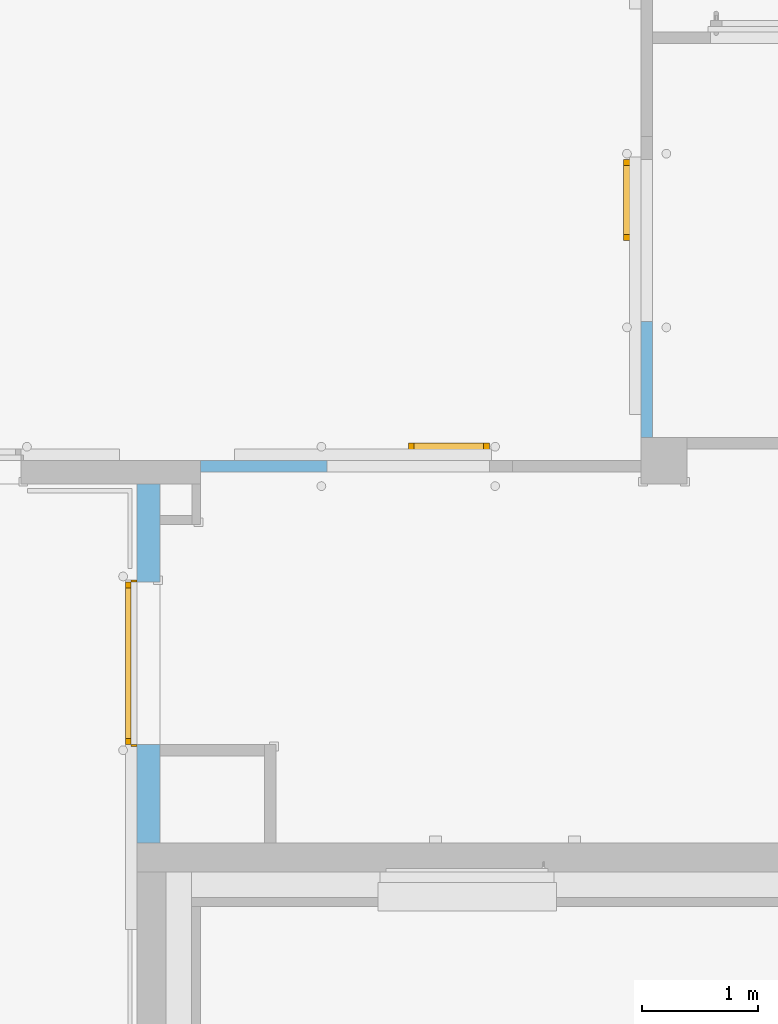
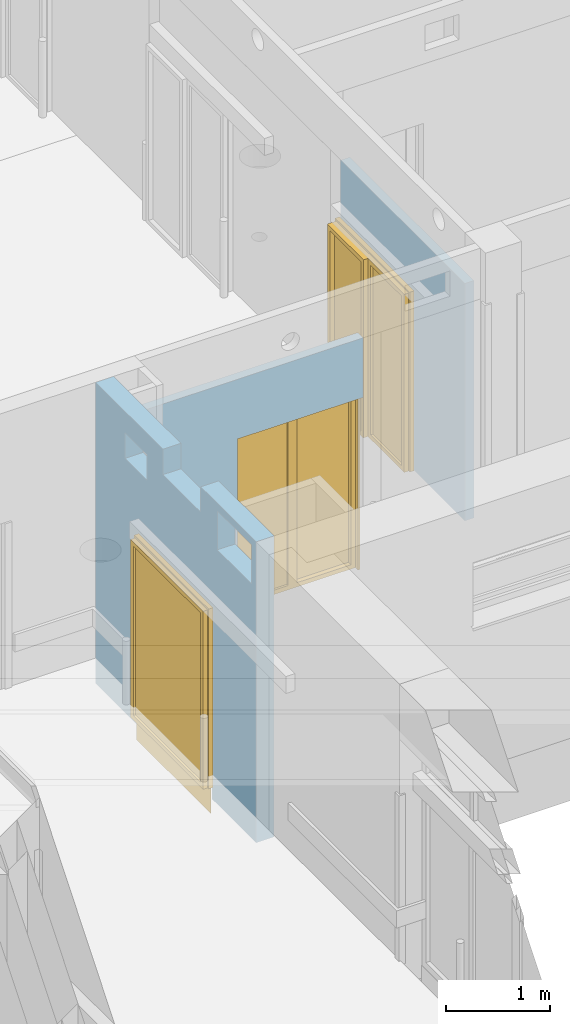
# One storey, part 109 of 140: 3 doors, 6 openings, plus 3 elements that do not belong to this part.
"""IFC4 building model written with IfcOpenShell, lengths in metres."""

from ifc_helpers import new_model, entity, si_unit, converted_unit, derived_unit, frame, frame_2d, origin, origin_with_axes, place, context, subcontext, project, spatial, polyline, rectangle, outline, extrude, closed_shell, open_shell, surface_model, source, transform, mapped, material, layer, layer_set, layer_usage, type_object, element, fill, save


model = new_model("IFC4")

# Units and contexts
model_context = context("Model", 3, precision=1e-05, world=origin())
body_context = subcontext(model_context, "Body", "Model", "MODEL_VIEW")
ifc_project = project(units=[si_unit("LENGTHUNIT", "METRE"), si_unit("AREAUNIT", "SQUARE_METRE"), si_unit("VOLUMEUNIT", "CUBIC_METRE"), si_unit("MASSUNIT", "GRAM", prefix="KILO"), converted_unit("PLANEANGLEUNIT", "DEGREE", entity("IfcPlaneAngleMeasure", 0.0174532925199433), si_unit("PLANEANGLEUNIT", "RADIAN"), dimensions=[0, 0, 0, 0, 0, 0, 0]), derived_unit("THERMALTRANSMITTANCEUNIT", [(si_unit("POWERUNIT", "WATT"), 1), (si_unit("THERMODYNAMICTEMPERATUREUNIT", "KELVIN"), -1), (si_unit("LENGTHUNIT", "METRE"), -2)]), derived_unit("VOLUMETRICFLOWRATEUNIT", [(si_unit("LENGTHUNIT", "METRE"), 3), (converted_unit("TIMEUNIT", "hour", entity("IfcTimeMeasure", 3600.0), si_unit("TIMEUNIT", "SECOND"), dimensions=[0, 0, 1, 0, 0, 0, 0]), -1), (si_unit("LENGTHUNIT", "METRE"), -1)])], contexts=[model_context])

# Site, building, storey
site_placement = place(None, origin())
site = spatial("IfcSite", under=ifc_project, at=site_placement, Name="3. ASŘ", CompositionType="ELEMENT")
building_placement = place(site_placement, origin())
building = spatial("IfcBuilding", under=site, at=building_placement, Name="Pavilon C", CompositionType="ELEMENT")
storey_placement = place(building_placement, origin())
storey = spatial("IfcBuildingStorey", under=building, at=storey_placement, Name="Půdorys 1.NP", CompositionType="ELEMENT", Elevation=0.0)

# Wall, opening, door
ifc_material_1 = material(Name="PROSKLENÁ PŘÍČKA DVOJITÁ")
ifc_layer_1 = layer(ifc_material_1, 0.1)
ifc_layer_set_1 = layer_set([ifc_layer_1])
ifc_layer_usage_1 = layer_usage(ifc_layer_set_1, "AXIS2", "POSITIVE", 0.0)
wall_1_placement = place(storey_placement, frame((56.0, 9.79999999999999, 0.0)))
wall_1 = element("IfcWall", 1, at=wall_1_placement, inside=storey, material=ifc_layer_usage_1, Name="PROSKLENÁ PŘÍČKA DVOJITÁ", context=body_context, shape_type="SweptSolid", body=[
    extrude(rectangle(XDim=2.492, YDim=0.1, at=frame_2d((1.246, 0.05), x_axis=(1.0, 0.0))), origin_with_axes(), (0.0, 0.0, 1.0), 2.8),
])
opening_1_placement = place(wall_1_placement, frame((2.492, 0.1, 0.0), z_axis=(0.0, -1.0, 0.0), x_axis=(0.0, 0.0, 1.0)))
opening_1 = element("IfcOpeningElement", 2, at=opening_1_placement, cuts=wall_1, Name="Dveřní otvor", ObjectType="Opening", context=body_context, shape_type="SweptSolid", body=[
    extrude(outline(polyline([(0.0, 1.4), (2.1, 1.4), (2.1, 0.0), (0.0, 0.0), (0.0, 1.4)])), origin_with_axes(), (0.0, 0.0, 1.0), 0.1),
])
door_type_1 = type_object("IfcDoorType", Name="I.DH14", OperationType="NOTDEFINED", ParameterTakesPrecedence=False, PredefinedType="DOOR")
shared_shape_1 = source(origin_with_axes(), body_context, "Body", "SurfaceModel", [
    surface_model("IfcShellBasedSurfaceModel", [(0.0, 0.0500000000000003, 2.12), (0.0, 0.05, 1.11492377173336e-17), (0.02, 0.05, 1.11492377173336e-17), (0.02, 0.0500000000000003, 2.12), (0.0, 0.0, 1.72724717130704e-17), (0.0, 2.62900812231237e-16, 2.12), (0.02, 2.62900812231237e-16, 2.12), (0.02, 0.0, 1.72724717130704e-17)], [closed_shell([[[0, 1, 2, 3]], [[4, 5, 6, 7]], [[1, 0, 5, 4]], [[2, 1, 4, 7]], [[3, 2, 7, 6]], [[0, 3, 6, 5]]], orient=[[False], [False], [False], [False], [False], [False]])]),
    surface_model("IfcShellBasedSurfaceModel", [(1.42, 0.0500000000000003, 2.12), (1.42, 0.05, 1.11492377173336e-17), (1.44, 0.05, 1.11492377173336e-17), (1.44, 0.0500000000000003, 2.12), (1.42, 0.0, 1.72724717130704e-17), (1.42, 2.62900812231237e-16, 2.12), (1.44, 2.62900812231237e-16, 2.12), (1.44, 0.0, 1.72724717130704e-17)], [closed_shell([[[0, 1, 2, 3]], [[4, 5, 6, 7]], [[1, 0, 5, 4]], [[2, 1, 4, 7]], [[3, 2, 7, 6]], [[0, 3, 6, 5]]], orient=[[False], [False], [False], [False], [False], [False]])]),
    surface_model("IfcShellBasedSurfaceModel", [(0.02, 0.0500000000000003, 2.12), (0.02, 0.0500000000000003, 2.1), (1.42, 0.0500000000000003, 2.1), (1.42, 0.0500000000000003, 2.12), (0.02, 2.55795384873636e-16, 2.1), (0.02, 2.55795384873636e-16, 2.12), (1.42, 2.55795384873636e-16, 2.12), (1.42, 2.55795384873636e-16, 2.1)], [closed_shell([[[0, 1, 2, 3]], [[4, 5, 6, 7]], [[1, 0, 5, 4]], [[2, 1, 4, 7]], [[3, 2, 7, 6]], [[0, 3, 6, 5]]], orient=[[False], [False], [False], [False], [False], [False]])]),
    surface_model("IfcShellBasedSurfaceModel", [(0.02, 0.1, 2.1), (0.02, 0.1, 5.02600372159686e-18), (0.07, 0.1, 5.02600372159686e-18), (0.07, 0.1, 2.1), (0.02, 0.05, 1.11492377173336e-17), (0.02, 0.0500000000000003, 2.1), (0.07, 0.0500000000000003, 2.1), (0.07, 0.05, 1.11492377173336e-17)], [closed_shell([[[0, 1, 2, 3]], [[4, 5, 6, 7]], [[1, 0, 5, 4]], [[2, 1, 4, 7]], [[3, 2, 7, 6]], [[0, 3, 6, 5]]], orient=[[False], [False], [False], [False], [False], [False]])]),
    surface_model("IfcShellBasedSurfaceModel", [(0.6695, 0.1, 2.1), (0.6695, 0.1, 5.02600372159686e-18), (0.7195, 0.1, 5.02600372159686e-18), (0.7195, 0.1, 2.1), (0.6695, 0.05, 1.11492377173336e-17), (0.6695, 0.0500000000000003, 2.1), (0.7195, 0.0500000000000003, 2.1), (0.7195, 0.05, 1.11492377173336e-17)], [closed_shell([[[0, 1, 2, 3]], [[4, 5, 6, 7]], [[1, 0, 5, 4]], [[2, 1, 4, 7]], [[3, 2, 7, 6]], [[0, 3, 6, 5]]], orient=[[False], [False], [False], [False], [False], [False]])]),
    surface_model("IfcShellBasedSurfaceModel", [(0.07, 0.1, 0.05), (0.07, 0.1, 5.02600372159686e-18), (0.6695, 0.1, 5.02600372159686e-18), (0.6695, 0.1, 0.05), (0.07, 0.05, 1.11492377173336e-17), (0.07, 0.05, 0.05), (0.6695, 0.05, 0.05), (0.6695, 0.05, 1.11492377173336e-17)], [closed_shell([[[0, 1, 2, 3]], [[4, 5, 6, 7]], [[1, 0, 5, 4]], [[2, 1, 4, 7]], [[3, 2, 7, 6]], [[0, 3, 6, 5]]], orient=[[False], [False], [False], [False], [False], [False]])]),
    surface_model("IfcShellBasedSurfaceModel", [(0.07, 0.1, 2.1), (0.07, 0.1, 2.05), (0.6695, 0.1, 2.05), (0.6695, 0.1, 2.1), (0.07, 0.0500000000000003, 2.05), (0.07, 0.0500000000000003, 2.1), (0.6695, 0.0500000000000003, 2.1), (0.6695, 0.0500000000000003, 2.05)], [closed_shell([[[0, 1, 2, 3]], [[4, 5, 6, 7]], [[1, 0, 5, 4]], [[2, 1, 4, 7]], [[3, 2, 7, 6]], [[0, 3, 6, 5]]], orient=[[False], [False], [False], [False], [False], [False]])]),
    surface_model("IfcShellBasedSurfaceModel", [(0.7205, 0.15, 2.1), (0.7205, 0.15, -1.09723027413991e-18), (0.7705, 0.15, -1.09723027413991e-18), (0.7705, 0.15, 2.1), (0.7205, 0.05, 1.11492377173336e-17), (0.7205, 0.0500000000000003, 2.1), (0.7705, 0.0500000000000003, 2.1), (0.7705, 0.05, 1.11492377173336e-17)], [closed_shell([[[0, 1, 2, 3]], [[4, 5, 6, 7]], [[1, 0, 5, 4]], [[2, 1, 4, 7]], [[3, 2, 7, 6]], [[0, 3, 6, 5]]], orient=[[False], [False], [False], [False], [False], [False]])]),
    surface_model("IfcShellBasedSurfaceModel", [(1.37, 0.15, 2.1), (1.37, 0.15, -1.09723027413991e-18), (1.42, 0.15, -1.09723027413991e-18), (1.42, 0.15, 2.1), (1.37, 0.05, 1.11492377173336e-17), (1.37, 0.0500000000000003, 2.1), (1.42, 0.0500000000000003, 2.1), (1.42, 0.05, 1.11492377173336e-17)], [closed_shell([[[0, 1, 2, 3]], [[4, 5, 6, 7]], [[1, 0, 5, 4]], [[2, 1, 4, 7]], [[3, 2, 7, 6]], [[0, 3, 6, 5]]], orient=[[False], [False], [False], [False], [False], [False]])]),
    surface_model("IfcShellBasedSurfaceModel", [(0.7705, 0.15, 0.05), (0.7705, 0.15, -1.09723027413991e-18), (1.37, 0.15, -1.09723027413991e-18), (1.37, 0.15, 0.05), (0.7705, 0.05, 1.11492377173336e-17), (0.7705, 0.05, 0.05), (1.37, 0.05, 0.05), (1.37, 0.05, 1.11492377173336e-17)], [closed_shell([[[0, 1, 2, 3]], [[4, 5, 6, 7]], [[1, 0, 5, 4]], [[2, 1, 4, 7]], [[3, 2, 7, 6]], [[0, 3, 6, 5]]], orient=[[False], [False], [False], [False], [False], [False]])]),
    surface_model("IfcShellBasedSurfaceModel", [(0.7705, 0.15, 2.1), (0.7705, 0.15, 2.05), (1.37, 0.15, 2.05), (1.37, 0.15, 2.1), (0.7705, 0.0500000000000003, 2.05), (0.7705, 0.0500000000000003, 2.1), (1.37, 0.0500000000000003, 2.1), (1.37, 0.0500000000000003, 2.05)], [closed_shell([[[0, 1, 2, 3]], [[4, 5, 6, 7]], [[1, 0, 5, 4]], [[2, 1, 4, 7]], [[3, 2, 7, 6]], [[0, 3, 6, 5]]], orient=[[False], [False], [False], [False], [False], [False]])]),
    surface_model("IfcShellBasedSurfaceModel", [(0.07, 0.075, 0.05), (0.6695, 0.075, 0.05), (0.6695, 0.0750000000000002, 2.05), (0.07, 0.0750000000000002, 2.05)], [open_shell([[[0, 1, 2, 3]]], orient=[[False]])]),
    surface_model("IfcShellBasedSurfaceModel", [(0.7705, 0.1, 0.05), (1.37, 0.1, 0.05), (1.37, 0.1, 2.05), (0.7705, 0.1, 2.05)], [open_shell([[[0, 1, 2, 3]]], orient=[[False]])]),
])
door_1_placement = place(opening_1_placement, frame((0.0, 1.42, 0.0), z_axis=(1.0, 0.0, 0.0), x_axis=(0.0, -1.0, 2.44929359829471e-16)))
door_1 = element("IfcDoor", 3, at=door_1_placement, inside=storey, type_object=door_type_1, Name="I.DH14", OverallHeight=2.14, OverallWidth=1.48, context=body_context, shape_type="MappedRepresentation", body=[
    mapped(shared_shape_1, transform((0.0, 0.0, 0.0), x_axis=(1.0, 0.0, 0.0), y_axis=(0.0, 1.0, 0.0), z_axis=(0.0, 0.0, 1.0), scale=1.0)),
])
fill(opening_1, door_1)

ifc_material_2 = material(Name="PROSKLENÁ PŘÍČKA DVOJITÁ")
ifc_layer_2 = layer(ifc_material_2, 0.1)
ifc_layer_set_2 = layer_set([ifc_layer_2])
ifc_layer_usage_2 = layer_usage(ifc_layer_set_2, "AXIS2", "POSITIVE", 0.0)
wall_2_placement = place(storey_placement, frame((59.8, 12.5, 0.0), z_axis=(0.0, 0.0, 1.0), x_axis=(0.0, -1.0, 0.0)))
wall_2 = element("IfcWall", 4, at=wall_2_placement, inside=storey, material=ifc_layer_usage_2, Name="PROSKLENÁ PŘÍČKA DVOJITÁ", context=body_context, shape_type="SweptSolid", body=[
    extrude(rectangle(XDim=2.4, YDim=0.1, at=frame_2d((1.2, 0.05), x_axis=(1.0, 0.0))), origin_with_axes(), (0.0, 0.0, 1.0), 2.8),
])
opening_2_placement = place(wall_2_placement, frame((0.0, 0.0, 0.0), z_axis=(0.0, 1.0, 0.0), x_axis=(0.0, 0.0, 1.0)))
opening_2 = element("IfcOpeningElement", 5, at=opening_2_placement, cuts=wall_2, Name="Dveřní otvor", ObjectType="Opening", context=body_context, shape_type="SweptSolid", body=[
    extrude(outline(polyline([(0.0, 1.4), (2.1, 1.4), (2.1, 0.0), (0.0, 0.0), (0.0, 1.4)])), origin_with_axes(), (0.0, 0.0, 1.0), 0.1),
])
door_type_2 = type_object("IfcDoorType", Name="I.DH15", OperationType="NOTDEFINED", ParameterTakesPrecedence=False, PredefinedType="DOOR")
shared_shape_2 = source(origin_with_axes(), body_context, "Body", "SurfaceModel", [
    surface_model("IfcShellBasedSurfaceModel", [(0.0, 0.0500000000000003, 2.12), (0.0, 0.05, 1.11492377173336e-17), (0.02, 0.05, 1.11492377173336e-17), (0.02, 0.0500000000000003, 2.12), (0.0, 0.0, 1.72724717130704e-17), (0.0, 2.62900812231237e-16, 2.12), (0.02, 2.62900812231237e-16, 2.12), (0.02, 0.0, 1.72724717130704e-17)], [closed_shell([[[0, 1, 2, 3]], [[4, 5, 6, 7]], [[1, 0, 5, 4]], [[2, 1, 4, 7]], [[3, 2, 7, 6]], [[0, 3, 6, 5]]], orient=[[False], [False], [False], [False], [False], [False]])]),
    surface_model("IfcShellBasedSurfaceModel", [(1.42, 0.0500000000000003, 2.12), (1.42, 0.05, 1.11492377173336e-17), (1.44, 0.05, 1.11492377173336e-17), (1.44, 0.0500000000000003, 2.12), (1.42, 0.0, 1.72724717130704e-17), (1.42, 2.62900812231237e-16, 2.12), (1.44, 2.62900812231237e-16, 2.12), (1.44, 0.0, 1.72724717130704e-17)], [closed_shell([[[0, 1, 2, 3]], [[4, 5, 6, 7]], [[1, 0, 5, 4]], [[2, 1, 4, 7]], [[3, 2, 7, 6]], [[0, 3, 6, 5]]], orient=[[False], [False], [False], [False], [False], [False]])]),
    surface_model("IfcShellBasedSurfaceModel", [(0.02, 0.0500000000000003, 2.12), (0.02, 0.0500000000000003, 2.1), (1.42, 0.0500000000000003, 2.1), (1.42, 0.0500000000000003, 2.12), (0.02, 2.55795384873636e-16, 2.1), (0.02, 2.55795384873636e-16, 2.12), (1.42, 2.55795384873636e-16, 2.12), (1.42, 2.55795384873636e-16, 2.1)], [closed_shell([[[0, 1, 2, 3]], [[4, 5, 6, 7]], [[1, 0, 5, 4]], [[2, 1, 4, 7]], [[3, 2, 7, 6]], [[0, 3, 6, 5]]], orient=[[False], [False], [False], [False], [False], [False]])]),
    surface_model("IfcShellBasedSurfaceModel", [(0.02, 0.1, 2.1), (0.02, 0.1, 5.02600372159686e-18), (0.07, 0.1, 5.02600372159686e-18), (0.07, 0.1, 2.1), (0.02, 0.05, 1.11492377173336e-17), (0.02, 0.0500000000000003, 2.1), (0.07, 0.0500000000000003, 2.1), (0.07, 0.05, 1.11492377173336e-17)], [closed_shell([[[0, 1, 2, 3]], [[4, 5, 6, 7]], [[1, 0, 5, 4]], [[2, 1, 4, 7]], [[3, 2, 7, 6]], [[0, 3, 6, 5]]], orient=[[False], [False], [False], [False], [False], [False]])]),
    surface_model("IfcShellBasedSurfaceModel", [(0.6695, 0.1, 2.1), (0.6695, 0.1, 5.02600372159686e-18), (0.7195, 0.1, 5.02600372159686e-18), (0.7195, 0.1, 2.1), (0.6695, 0.05, 1.11492377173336e-17), (0.6695, 0.0500000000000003, 2.1), (0.7195, 0.0500000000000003, 2.1), (0.7195, 0.05, 1.11492377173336e-17)], [closed_shell([[[0, 1, 2, 3]], [[4, 5, 6, 7]], [[1, 0, 5, 4]], [[2, 1, 4, 7]], [[3, 2, 7, 6]], [[0, 3, 6, 5]]], orient=[[False], [False], [False], [False], [False], [False]])]),
    surface_model("IfcShellBasedSurfaceModel", [(0.07, 0.1, 0.05), (0.07, 0.1, 5.02600372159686e-18), (0.6695, 0.1, 5.02600372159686e-18), (0.6695, 0.1, 0.05), (0.07, 0.05, 1.11492377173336e-17), (0.07, 0.05, 0.05), (0.6695, 0.05, 0.05), (0.6695, 0.05, 1.11492377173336e-17)], [closed_shell([[[0, 1, 2, 3]], [[4, 5, 6, 7]], [[1, 0, 5, 4]], [[2, 1, 4, 7]], [[3, 2, 7, 6]], [[0, 3, 6, 5]]], orient=[[False], [False], [False], [False], [False], [False]])]),
    surface_model("IfcShellBasedSurfaceModel", [(0.07, 0.1, 2.1), (0.07, 0.1, 2.05), (0.6695, 0.1, 2.05), (0.6695, 0.1, 2.1), (0.07, 0.0500000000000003, 2.05), (0.07, 0.0500000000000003, 2.1), (0.6695, 0.0500000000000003, 2.1), (0.6695, 0.0500000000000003, 2.05)], [closed_shell([[[0, 1, 2, 3]], [[4, 5, 6, 7]], [[1, 0, 5, 4]], [[2, 1, 4, 7]], [[3, 2, 7, 6]], [[0, 3, 6, 5]]], orient=[[False], [False], [False], [False], [False], [False]])]),
    surface_model("IfcShellBasedSurfaceModel", [(0.7205, 0.15, 2.1), (0.7205, 0.15, -1.09723027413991e-18), (0.7705, 0.15, -1.09723027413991e-18), (0.7705, 0.15, 2.1), (0.7205, 0.05, 1.11492377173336e-17), (0.7205, 0.0500000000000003, 2.1), (0.7705, 0.0500000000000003, 2.1), (0.7705, 0.05, 1.11492377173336e-17)], [closed_shell([[[0, 1, 2, 3]], [[4, 5, 6, 7]], [[1, 0, 5, 4]], [[2, 1, 4, 7]], [[3, 2, 7, 6]], [[0, 3, 6, 5]]], orient=[[False], [False], [False], [False], [False], [False]])]),
    surface_model("IfcShellBasedSurfaceModel", [(1.37, 0.15, 2.1), (1.37, 0.15, -1.09723027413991e-18), (1.42, 0.15, -1.09723027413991e-18), (1.42, 0.15, 2.1), (1.37, 0.05, 1.11492377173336e-17), (1.37, 0.0500000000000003, 2.1), (1.42, 0.0500000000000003, 2.1), (1.42, 0.05, 1.11492377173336e-17)], [closed_shell([[[0, 1, 2, 3]], [[4, 5, 6, 7]], [[1, 0, 5, 4]], [[2, 1, 4, 7]], [[3, 2, 7, 6]], [[0, 3, 6, 5]]], orient=[[False], [False], [False], [False], [False], [False]])]),
    surface_model("IfcShellBasedSurfaceModel", [(0.7705, 0.15, 0.05), (0.7705, 0.15, -1.09723027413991e-18), (1.37, 0.15, -1.09723027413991e-18), (1.37, 0.15, 0.05), (0.7705, 0.05, 1.11492377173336e-17), (0.7705, 0.05, 0.05), (1.37, 0.05, 0.05), (1.37, 0.05, 1.11492377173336e-17)], [closed_shell([[[0, 1, 2, 3]], [[4, 5, 6, 7]], [[1, 0, 5, 4]], [[2, 1, 4, 7]], [[3, 2, 7, 6]], [[0, 3, 6, 5]]], orient=[[False], [False], [False], [False], [False], [False]])]),
    surface_model("IfcShellBasedSurfaceModel", [(0.7705, 0.15, 2.1), (0.7705, 0.15, 2.05), (1.37, 0.15, 2.05), (1.37, 0.15, 2.1), (0.7705, 0.0500000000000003, 2.05), (0.7705, 0.0500000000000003, 2.1), (1.37, 0.0500000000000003, 2.1), (1.37, 0.0500000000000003, 2.05)], [closed_shell([[[0, 1, 2, 3]], [[4, 5, 6, 7]], [[1, 0, 5, 4]], [[2, 1, 4, 7]], [[3, 2, 7, 6]], [[0, 3, 6, 5]]], orient=[[False], [False], [False], [False], [False], [False]])]),
    surface_model("IfcShellBasedSurfaceModel", [(0.07, 0.075, 0.05), (0.6695, 0.075, 0.05), (0.6695, 0.0750000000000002, 2.05), (0.07, 0.0750000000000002, 2.05)], [open_shell([[[0, 1, 2, 3]]], orient=[[False]])]),
    surface_model("IfcShellBasedSurfaceModel", [(0.7705, 0.1, 0.05), (1.37, 0.1, 0.05), (1.37, 0.1, 2.05), (0.7705, 0.1, 2.05)], [open_shell([[[0, 1, 2, 3]]], orient=[[False]])]),
])
door_2_placement = place(opening_2_placement, frame((0.0, 1.42, -1.45519152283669e-14), z_axis=(1.0, 0.0, 0.0), x_axis=(0.0, -1.0, 1.22464679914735e-16)))
door_2 = element("IfcDoor", 6, at=door_2_placement, inside=storey, type_object=door_type_2, Name="I.DH15", OverallHeight=2.14, OverallWidth=1.48, context=body_context, shape_type="MappedRepresentation", body=[
    mapped(shared_shape_2, transform((0.0, 0.0, 0.0), x_axis=(1.0, 0.0, 0.0), y_axis=(0.0, 1.0, 0.0), z_axis=(0.0, 0.0, 1.0), scale=1.0)),
])
fill(opening_2, door_2)

# Wall, openings, door
ifc_material_3 = material(Name="ZELEZOBETONOVÁ KCE")
ifc_layer_3 = layer(ifc_material_3, 0.2)
ifc_layer_set_3 = layer_set([ifc_layer_3])
ifc_layer_usage_3 = layer_usage(ifc_layer_set_3, "AXIS2", "POSITIVE", 0.0)
wall_3_placement = place(storey_placement, frame((55.45, 9.69999999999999, -0.15), z_axis=(0.0, 0.0, 1.0), x_axis=(0.0, -1.0, 0.0)))
wall_3 = element("IfcWall", 7, at=wall_3_placement, inside=storey, material=ifc_layer_usage_3, Name="ZELEZOBETONOVÁ KCE", context=body_context, shape_type="SweptSolid", body=[
    extrude(rectangle(XDim=3.1, YDim=0.2, at=frame_2d((1.55, 0.1), x_axis=(1.0, 0.0))), origin_with_axes(), (0.0, 0.0, 1.0), 3.55),
])
opening_3_placement = place(wall_3_placement, frame((0.85, 0.0, -0.15), z_axis=(0.0, 1.0, 0.0), x_axis=(0.0, 0.0, 1.0)))
opening_3 = element("IfcOpeningElement", 8, at=opening_3_placement, cuts=wall_3, Name="Dveřní otvor", ObjectType="Opening", context=body_context, shape_type="SweptSolid", body=[
    extrude(outline(polyline([(0.0, 1.4), (2.4, 1.4), (2.4, 0.0), (0.0, 0.0), (0.0, 1.4)])), origin_with_axes(), (0.0, 0.0, 1.0), 0.2),
])
opening_4_placement = place(wall_3_placement, frame((3.01000000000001, 0.199999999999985, 3.0), z_axis=(0.0, -1.0, 0.0), x_axis=(0.0, 0.0, 1.0)))
element("IfcOpeningElement", 9, at=opening_4_placement, cuts=wall_3, Name="VZT", ObjectType="Opening", context=body_context, shape_type="SweptSolid", body=[
    extrude(outline(polyline([(0.0, 0.66), (0.46, 0.66), (0.46, 0.0), (0.0, 0.0), (0.0, 0.66)])), origin_with_axes(), (0.0, 0.0, 1.0), 0.2),
])
opening_5_placement = place(wall_3_placement, frame((2.03000664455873, 0.2, 3.25), z_axis=(0.0, -1.0, 0.0), x_axis=(0.0, 0.0, 1.0)))
element("IfcOpeningElement", 10, at=opening_5_placement, cuts=wall_3, Name="VZT", ObjectType="Opening", context=body_context, shape_type="SweptSolid", body=[
    extrude(outline(polyline([(0.0, 0.730000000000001), (0.3, 0.730000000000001), (0.3, 0.0), (0.0, 0.0), (0.0, 0.730000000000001)])), origin_with_axes(), (0.0, 0.0, 1.0), 0.2),
])
opening_6_placement = place(wall_3_placement, frame((0.989281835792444, 0.2, 3.0), z_axis=(0.0, -1.0, 0.0), x_axis=(0.0, 0.0, 1.0)))
element("IfcOpeningElement", 11, at=opening_6_placement, cuts=wall_3, Name="VZT", ObjectType="Opening", context=body_context, shape_type="SweptSolid", body=[
    extrude(outline(polyline([(0.0, 0.42), (0.3, 0.42), (0.3, 0.0), (0.0, 0.0), (0.0, 0.42)])), origin_with_axes(), (0.0, 0.0, 1.0), 0.2),
])
door_type_3 = type_object("IfcDoorType", Name="I.DH13", OperationType="NOTDEFINED", ParameterTakesPrecedence=False, PredefinedType="DOOR")
shared_shape_3 = source(origin_with_axes(), body_context, "Body", "SurfaceModel", [
    surface_model("IfcShellBasedSurfaceModel", [(0.0, 0.025, 0.0), (1.44, 0.025, 0.0), (1.44, 0.025, 0.3), (0.0, 0.025, 0.3)], [open_shell([[[0, 1, 2, 3]]], orient=[[False]])]),
    surface_model("IfcShellBasedSurfaceModel", [(0.0, 0.0500000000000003, 2.42), (0.0, 0.05, 0.301), (0.02, 0.05, 0.301), (0.02, 0.0500000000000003, 2.42), (0.0, 0.0, 0.301), (0.0, 2.62900812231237e-16, 2.42), (0.02, 2.62900812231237e-16, 2.42), (0.02, 0.0, 0.301)], [closed_shell([[[0, 1, 2, 3]], [[4, 5, 6, 7]], [[1, 0, 5, 4]], [[2, 1, 4, 7]], [[3, 2, 7, 6]], [[0, 3, 6, 5]]], orient=[[False], [False], [False], [False], [False], [False]])]),
    surface_model("IfcShellBasedSurfaceModel", [(1.42, 0.0500000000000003, 2.42), (1.42, 0.05, 0.301), (1.44, 0.05, 0.301), (1.44, 0.0500000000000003, 2.42), (1.42, 0.0, 0.301), (1.42, 2.62900812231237e-16, 2.42), (1.44, 2.62900812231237e-16, 2.42), (1.44, 0.0, 0.301)], [closed_shell([[[0, 1, 2, 3]], [[4, 5, 6, 7]], [[1, 0, 5, 4]], [[2, 1, 4, 7]], [[3, 2, 7, 6]], [[0, 3, 6, 5]]], orient=[[False], [False], [False], [False], [False], [False]])]),
    surface_model("IfcShellBasedSurfaceModel", [(0.02, 0.0500000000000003, 2.42), (0.02, 0.0500000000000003, 2.4), (1.42, 0.0500000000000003, 2.4), (1.42, 0.0500000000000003, 2.42), (0.02, 2.55795384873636e-16, 2.4), (0.02, 2.55795384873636e-16, 2.42), (1.42, 2.55795384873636e-16, 2.42), (1.42, 2.55795384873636e-16, 2.4)], [closed_shell([[[0, 1, 2, 3]], [[4, 5, 6, 7]], [[1, 0, 5, 4]], [[2, 1, 4, 7]], [[3, 2, 7, 6]], [[0, 3, 6, 5]]], orient=[[False], [False], [False], [False], [False], [False]])]),
    surface_model("IfcShellBasedSurfaceModel", [(0.02, 0.1, 2.4), (0.02, 0.1, 0.301), (0.07, 0.1, 0.301), (0.07, 0.1, 2.4), (0.02, 0.05, 0.301), (0.02, 0.0500000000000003, 2.4), (0.07, 0.0500000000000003, 2.4), (0.07, 0.05, 0.301)], [closed_shell([[[0, 1, 2, 3]], [[4, 5, 6, 7]], [[1, 0, 5, 4]], [[2, 1, 4, 7]], [[3, 2, 7, 6]], [[0, 3, 6, 5]]], orient=[[False], [False], [False], [False], [False], [False]])]),
    surface_model("IfcShellBasedSurfaceModel", [(1.37, 0.1, 2.4), (1.37, 0.1, 0.301), (1.42, 0.1, 0.301), (1.42, 0.1, 2.4), (1.37, 0.05, 0.301), (1.37, 0.0500000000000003, 2.4), (1.42, 0.0500000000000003, 2.4), (1.42, 0.05, 0.301)], [closed_shell([[[0, 1, 2, 3]], [[4, 5, 6, 7]], [[1, 0, 5, 4]], [[2, 1, 4, 7]], [[3, 2, 7, 6]], [[0, 3, 6, 5]]], orient=[[False], [False], [False], [False], [False], [False]])]),
    surface_model("IfcShellBasedSurfaceModel", [(0.07, 0.1, 0.351), (0.07, 0.1, 0.301), (1.37, 0.1, 0.301), (1.37, 0.1, 0.351), (0.07, 0.05, 0.301), (0.07, 0.05, 0.351), (1.37, 0.05, 0.351), (1.37, 0.05, 0.301)], [closed_shell([[[0, 1, 2, 3]], [[4, 5, 6, 7]], [[1, 0, 5, 4]], [[2, 1, 4, 7]], [[3, 2, 7, 6]], [[0, 3, 6, 5]]], orient=[[False], [False], [False], [False], [False], [False]])]),
    surface_model("IfcShellBasedSurfaceModel", [(0.07, 0.1, 2.4), (0.07, 0.1, 2.35), (1.37, 0.1, 2.35), (1.37, 0.1, 2.4), (0.07, 0.0500000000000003, 2.35), (0.07, 0.0500000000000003, 2.4), (1.37, 0.0500000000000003, 2.4), (1.37, 0.0500000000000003, 2.35)], [closed_shell([[[0, 1, 2, 3]], [[4, 5, 6, 7]], [[1, 0, 5, 4]], [[2, 1, 4, 7]], [[3, 2, 7, 6]], [[0, 3, 6, 5]]], orient=[[False], [False], [False], [False], [False], [False]])]),
    surface_model("IfcShellBasedSurfaceModel", [(0.07, 0.075, 0.351), (1.37, 0.075, 0.351), (1.37, 0.0750000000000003, 2.35), (0.07, 0.0750000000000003, 2.35)], [open_shell([[[0, 1, 2, 3]]], orient=[[False]])]),
])
door_3_placement = place(opening_3_placement, frame((0.0, 1.42, -1.45519152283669e-14), z_axis=(1.0, 0.0, 0.0), x_axis=(0.0, -1.0, 1.22464679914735e-16)))
door_3 = element("IfcDoor", 12, at=door_3_placement, inside=storey, type_object=door_type_3, Name="I.DH13", OverallHeight=2.44, OverallWidth=1.48, context=body_context, shape_type="MappedRepresentation", body=[
    mapped(shared_shape_3, transform((0.0, 0.0, 0.0), x_axis=(1.0, 0.0, 0.0), y_axis=(0.0, 1.0, 0.0), z_axis=(0.0, 0.0, 1.0), scale=1.0)),
])
fill(opening_3, door_3)

save(model, "model.ifc")
